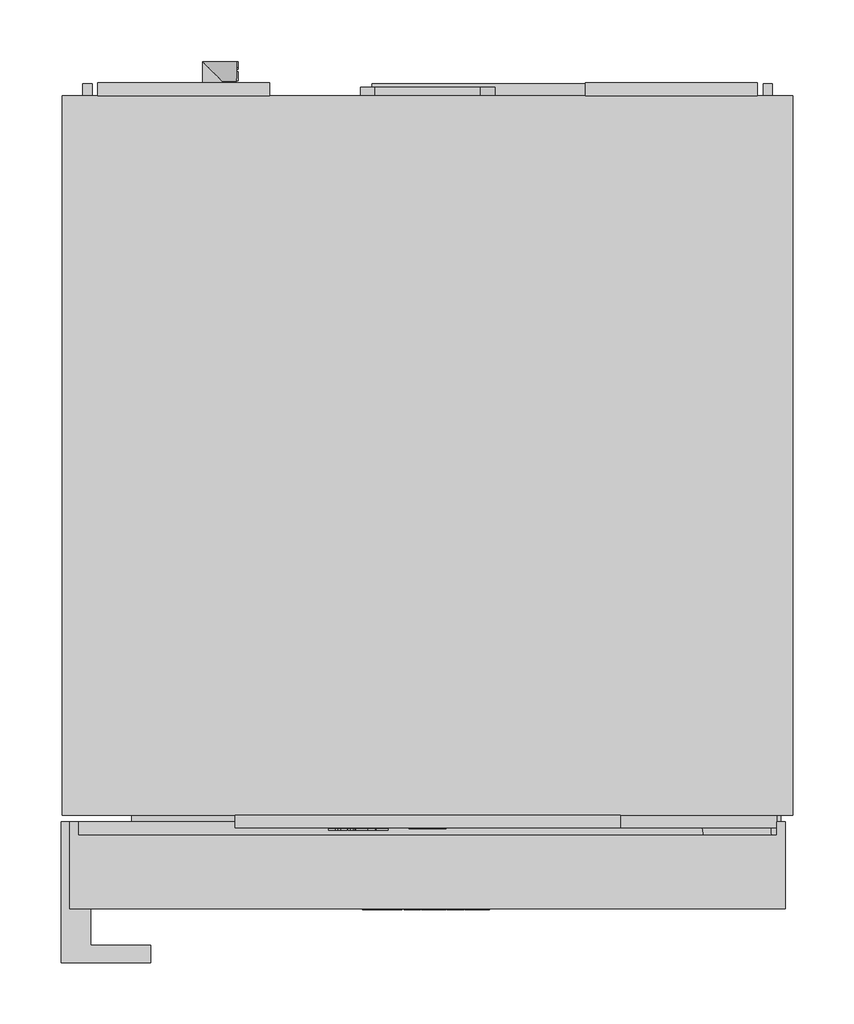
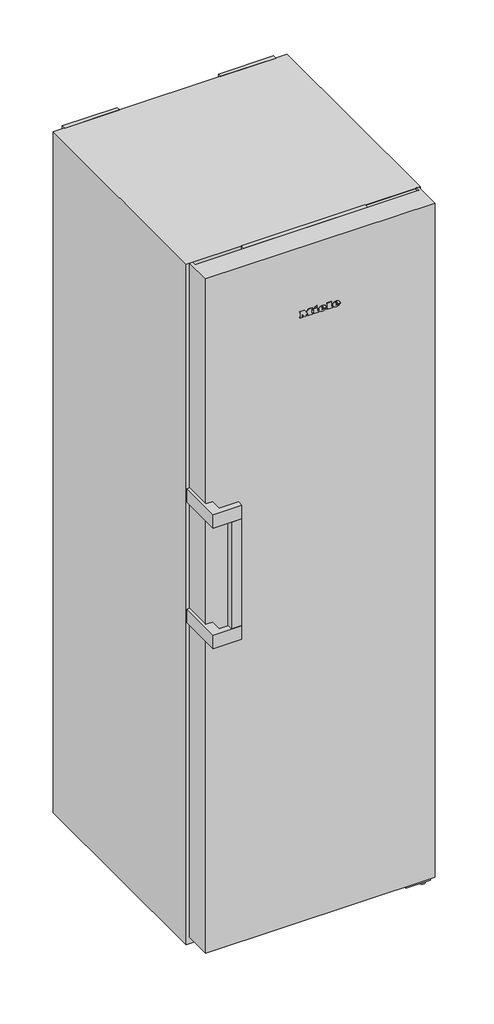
# Not in any storey: 1 proxy.
"""IFC4 building model written with IfcOpenShell, lengths in millimetres."""

from ifc_helpers import new_model, si_unit, origin, place, context, project, spatial, transform, mapped, element, save
from components import specialty_equipment_b672315e

model = new_model("IFC4")

# Units and contexts
model_context = context("Model", 3, world=origin())
ifc_project = project(units=[si_unit("LENGTHUNIT", "METRE", prefix="MILLI")], contexts=[model_context])

# Site, building
site = spatial("IfcSite", under=ifc_project)
building = spatial("IfcBuilding", under=site)

# Proxy
placement = place(None, origin())
specialty_equipment_shape = specialty_equipment_b672315e(model_context)
element("IfcBuildingElementProxy", 1, Name="11953140_EU1_FN4772E_WS : 37477254_EU1_11953140_FN4772E_WS", ObjectType="11953140_EU1_FN4772E_WS : 37477254_EU1_11953140_FN4772E_WS", at=placement, inside=building, context=model_context, shape_type="MappedRepresentation", body=[
    mapped(specialty_equipment_shape, transform((0.0, 0.0, 0.0), x_axis=(1.0, 0.0, 0.0), y_axis=(0.0, 1.0, 0.0), z_axis=(0.0, 0.0, 1.0))),
])

save(model, "model.ifc")
